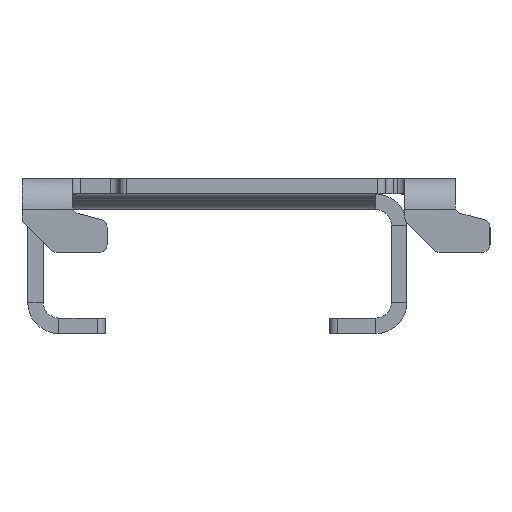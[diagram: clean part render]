
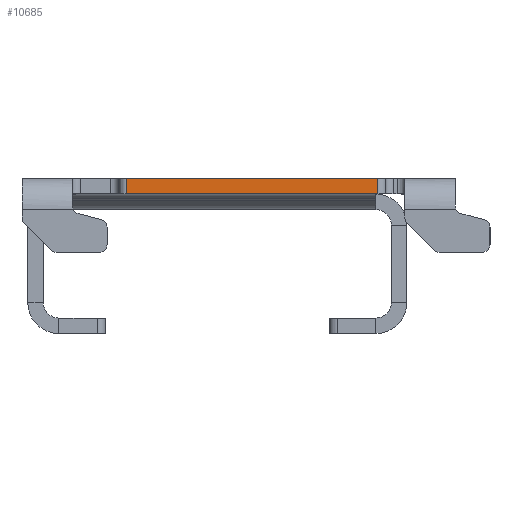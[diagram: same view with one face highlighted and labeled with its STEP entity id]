
A CAD part, left-side view. The second image highlights one B-rep face of the part: STEP entity #10685.
In plain terms, the highlighted planar face has unit normal (-1, 0, 0).
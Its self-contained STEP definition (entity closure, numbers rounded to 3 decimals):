
#1803 = CARTESIAN_POINT ( 'NONE',  ( -196.359, 11.75, 9.031 ) ) ;
#3074 = PLANE ( 'NONE',  #12996 ) ;
#3160 = DIRECTION ( 'NONE',  ( 0., 0., 1. ) ) ;
#3315 = DIRECTION ( 'NONE',  ( 0., 1., 0. ) ) ;
#3703 = ORIENTED_EDGE ( 'NONE', *, *, #5206, .T. ) ;
#4131 = ORIENTED_EDGE ( 'NONE', *, *, #17525, .T. ) ;
#4285 = VECTOR ( 'NONE', #12018, 1000. ) ;
#4761 = VERTEX_POINT ( 'NONE', #1803 ) ;
#5206 = EDGE_CURVE ( 'NONE', #10880, #4761, #6062, .T. ) ;
#6004 = CARTESIAN_POINT ( 'NONE',  ( -196.359, -20.75, 9.031 ) ) ;
#6062 = LINE ( 'NONE', #9419, #15953 ) ;
#6305 = DIRECTION ( 'NONE',  ( 0., 0., 1. ) ) ;
#6596 = CARTESIAN_POINT ( 'NONE',  ( -196.359, -20.75, 11.031 ) ) ;
#7801 = CARTESIAN_POINT ( 'NONE',  ( -196.359, -20.75, 11.031 ) ) ;
#8498 = EDGE_LOOP ( 'NONE', ( #12841, #16076, #4131, #3703 ) ) ;
#8786 = LINE ( 'NONE', #16792, #18714 ) ;
#9419 = CARTESIAN_POINT ( 'NONE',  ( -196.359, 11.75, 9.031 ) ) ;
#10685 = ADVANCED_FACE ( 'NONE', ( #16558 ), #3074, .T. ) ;
#10867 = LINE ( 'NONE', #7801, #15671 ) ;
#10880 = VERTEX_POINT ( 'NONE', #14060 ) ;
#11193 = VERTEX_POINT ( 'NONE', #6596 ) ;
#12018 = DIRECTION ( 'NONE',  ( 0., 1., 0. ) ) ;
#12209 = DIRECTION ( 'NONE',  ( 0., 0., -1. ) ) ;
#12841 = ORIENTED_EDGE ( 'NONE', *, *, #14196, .F. ) ;
#12996 = AXIS2_PLACEMENT_3D ( 'NONE', #15168, #16659, #3160 ) ;
#14060 = CARTESIAN_POINT ( 'NONE',  ( -196.359, 11.75, 11.031 ) ) ;
#14196 = EDGE_CURVE ( 'NONE', #18693, #4761, #15288, .T. ) ;
#15168 = CARTESIAN_POINT ( 'NONE',  ( -196.359, 25.25, 11.031 ) ) ;
#15245 = EDGE_CURVE ( 'NONE', #18693, #11193, #10867, .T. ) ;
#15288 = LINE ( 'NONE', #16765, #4285 ) ;
#15671 = VECTOR ( 'NONE', #6305, 1000. ) ;
#15953 = VECTOR ( 'NONE', #12209, 1000. ) ;
#16076 = ORIENTED_EDGE ( 'NONE', *, *, #15245, .T. ) ;
#16558 = FACE_OUTER_BOUND ( 'NONE', #8498, .T. ) ;
#16659 = DIRECTION ( 'NONE',  ( -1., 0., 0. ) ) ;
#16765 = CARTESIAN_POINT ( 'NONE',  ( -196.359, 0., 9.031 ) ) ;
#16792 = CARTESIAN_POINT ( 'NONE',  ( -196.359, 25.25, 11.031 ) ) ;
#17525 = EDGE_CURVE ( 'NONE', #11193, #10880, #8786, .T. ) ;
#18693 = VERTEX_POINT ( 'NONE', #6004 ) ;
#18714 = VECTOR ( 'NONE', #3315, 1000. ) ;
